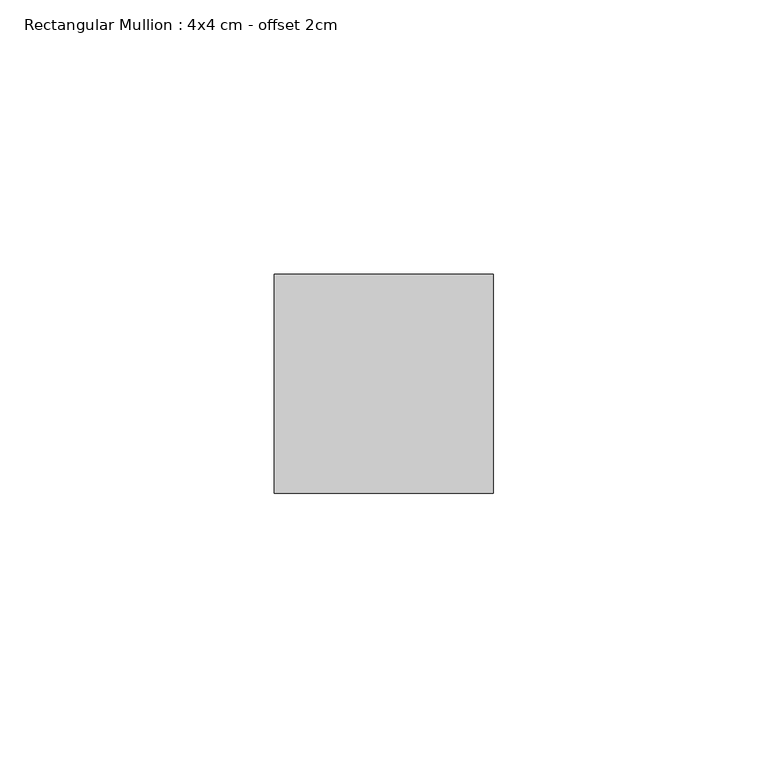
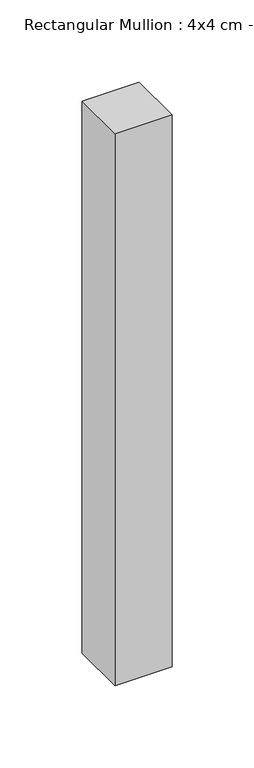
"""IFC4 building model written with IfcOpenShell, lengths in millimetres: member geometry, Rectangular Mullion : 4x4 cm - offset 2cm."""

from ifc_helpers import new_model, si_unit, frame, origin, place, context, project, spatial, polyline, outline, extrude, source, transform, mapped, element, save


def rectangular_mullion_4x4_cm_offset_2cm_e3c305ea(model_context):
    return source(origin(), model_context, "Body", "SweptSolid", [
        extrude(outline(polyline([(0.0, 0.0), (0.0, -40.0), (-40.0, -40.0), (-40.0, 0.0), (0.0, 0.0)])), frame((0.0, 0.0, -410.0), z_axis=(0.0, 0.0, 1.0), x_axis=(1.0, 0.0, 0.0)), (0.0, 0.0, 1.0), 410.0),
    ])


if __name__ == "__main__":
    model = new_model("IFC4")
    model_context = context("Model", 3, world=origin())
    ifc_project = project(units=[si_unit("LENGTHUNIT", "METRE", prefix="MILLI")], contexts=[model_context])
    site = spatial("IfcSite", under=ifc_project)
    building = spatial("IfcBuilding", under=site)
    placement = place(None, origin())
    rectangular_mullion_4x4_cm_offset_2cm_shape = rectangular_mullion_4x4_cm_offset_2cm_e3c305ea(model_context)
    element("IfcMember", 1, ObjectType="Rectangular Mullion : 4x4 cm - offset 2cm", at=placement, inside=building, context=model_context, shape_type="MappedRepresentation", body=[
        mapped(rectangular_mullion_4x4_cm_offset_2cm_shape, transform((0.0, 0.0, 0.0), x_axis=(1.0, 0.0, 0.0), y_axis=(0.0, 1.0, 0.0), z_axis=(0.0, 0.0, 1.0))),
    ])
    save(model, "model.ifc")
